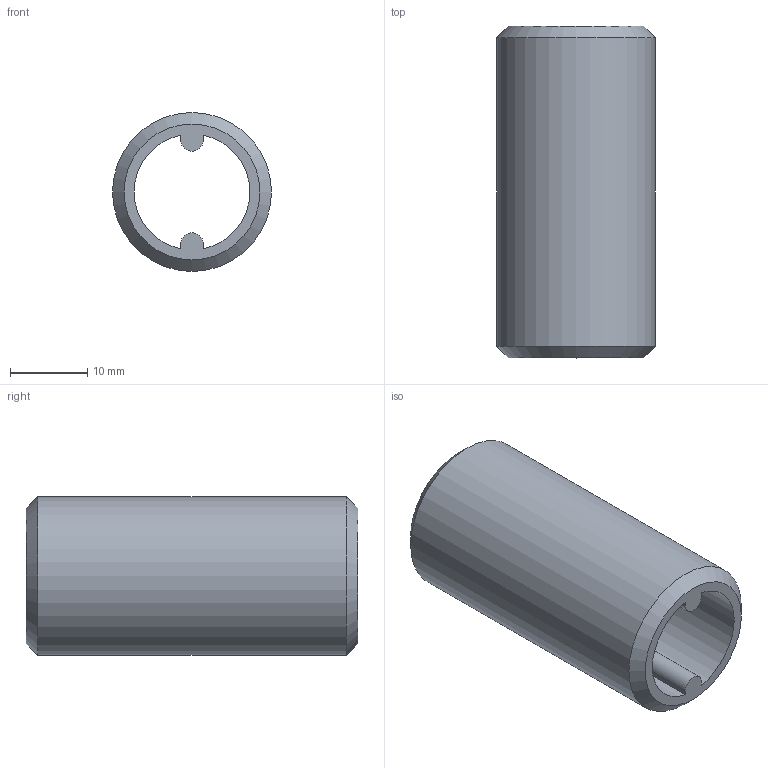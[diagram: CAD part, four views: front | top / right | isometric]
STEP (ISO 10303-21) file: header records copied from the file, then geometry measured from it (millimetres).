
FILE_DESCRIPTION(('STEP AP203'), '1');
FILE_NAME('ÂÐ.715291.001 - VTr.651.N.0004 Íèï. ïîä ñãîí. êëþ÷', '2024-07-11T07:56:37', ('User'), ('Vesta'), 'C3D Converter', 'C3D Toolkit', '');
FILE_SCHEMA(('CONFIG_CONTROL_DESIGN'));
Length unit declared in the file: millimetre
Products named in the file (1): ВР.715291.001
Bounding box: 20.6 x 43 x 20.6 mm (x, y, z)
Volume: 7065.8 mm3; surface area: 5264.5 mm2
Topology: 1 solids, 1 shells, 13 faces, 31 edges, 20 vertices
Faces by surface type: plane 6, cylinder 5, cone 2
Full cylindrical faces by diameter (mm): 20.6 x1
Entity records: 401 total; most frequent: DIRECTION 68, CARTESIAN_POINT 62, ORIENTED_EDGE 56, EDGE_CURVE 28, AXIS2_PLACEMENT_3D 26, VERTEX_POINT 20, EDGE_LOOP 18, LINE 16
